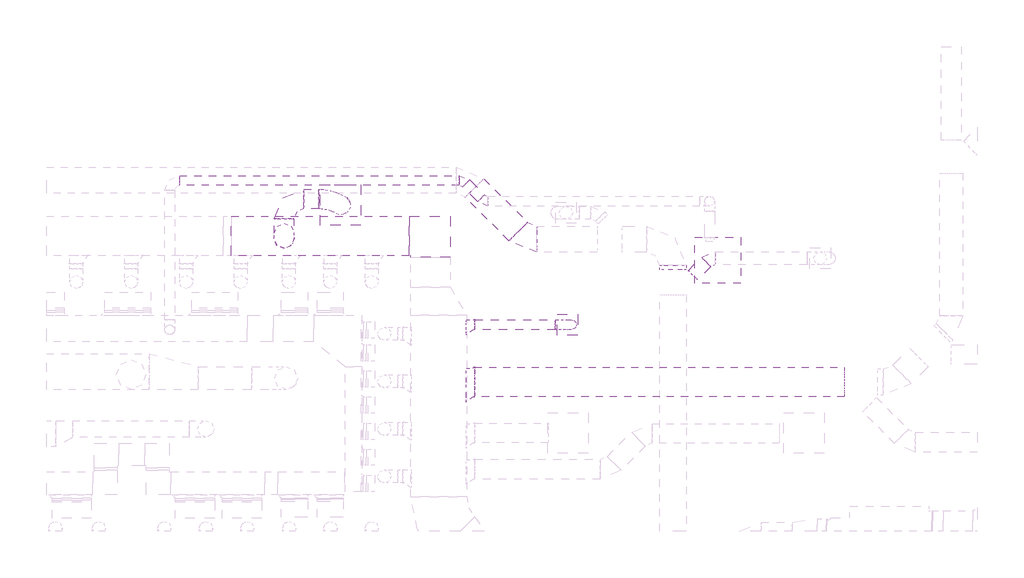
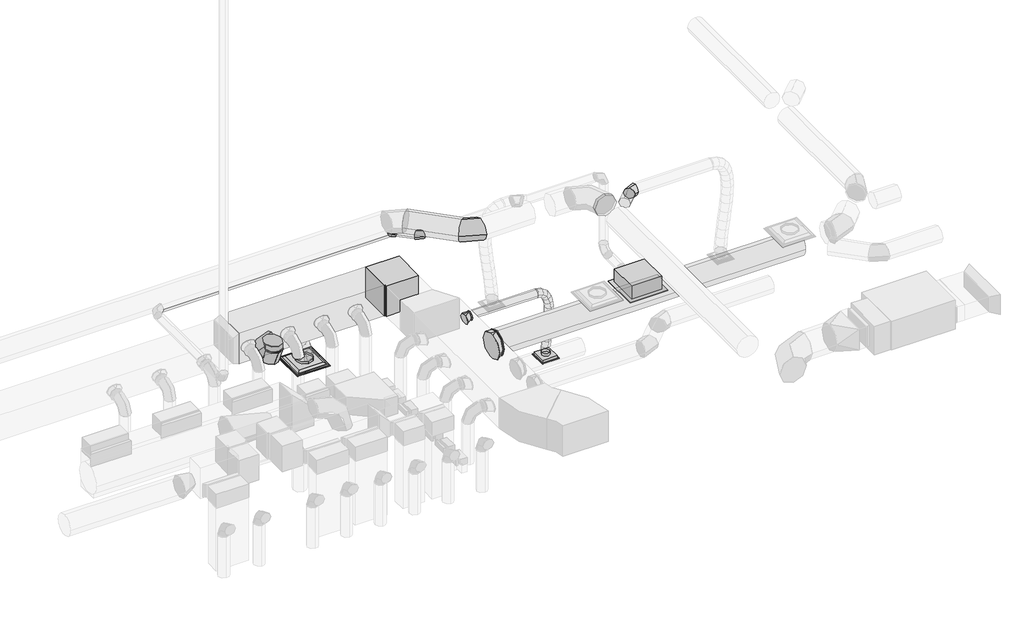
# One storey, part 26 of 33: 11 duct segments, 10 duct fittings, 2 air terminals, 1 proxy.
"""IFC4 building model written with IfcOpenShell, lengths in millimetres."""

from ifc_helpers import new_model, si_unit, point, frame, frame_2d, origin, place, context, project, spatial, polyline, circle_curve, ellipse_curve, trimmed, segment, composite_curve, outline, extrude, transform, mapped, element, save
from ifc_brep_helpers import plane_surface, cylinder_surface, advanced_brep
from components import air_terminal_a17ada07, air_terminal_5d8b7fa0, cash18d_cash18d_723cf2d9, rectangular_elbow_mitered_standard_5cce6547, round_elbow_1_d_30de4f45, round_elbow_1_d_281bc45b, round_elbow_1_d_ab3aa7ba, round_elbow_1_d_9a27e954, round_takeoff_shoe_standard_f5a08d47, round_takeoff_shoe_standard_8a2cc7e4, round_takeoff_shoe_standard_4f783c44

model = new_model("IFC4")

# Units and contexts
model_context = context("Model", 3, world=origin())
ifc_project = project(units=[si_unit("LENGTHUNIT", "METRE", prefix="MILLI")], contexts=[model_context])

# Site, building, storey
site = spatial("IfcSite", under=ifc_project)
building = spatial("IfcBuilding", under=site)
storey = spatial("IfcBuildingStorey", under=building, Name="T.O. SLAB - 1ST", Elevation=-25.4)

# Air terminals
placement = place(None, origin())
air_terminal_shape = air_terminal_a17ada07(model_context)
element("IfcAirTerminal", 1, ObjectType="Titus-Round_Neck_Supply_Diffuser-PCS_Surface_Mount : PCS AA-12_24x24", at=placement, inside=storey, context=model_context, shape_type="MappedRepresentation", body=[
    mapped(air_terminal_shape, transform((26085.8, 30772.0034288, 2717.8), x_axis=(0.0, -1.0, 0.0), y_axis=(-1.0, 0.0, 0.0), z_axis=(0.0, 0.0, -1.0))),
])
air_terminal_2_shape = air_terminal_5d8b7fa0(model_context)
element("IfcAirTerminal", 2, ObjectType="Titus-Round_Neck_Supply_Diffuser-PCS_Surface_Mount : PCS AA-06_12x12", at=placement, inside=storey, context=model_context, shape_type="MappedRepresentation", body=[
    mapped(air_terminal_2_shape, transform((29602.4038177, 28918.4516545, 2717.8), x_axis=(1.0, 0.0, 0.0), y_axis=(0.0, -1.0, 0.0), z_axis=(0.0, 0.0, -1.0))),
])

# Proxy
cash18d_cash18d_shape = cash18d_cash18d_723cf2d9(model_context)
element("IfcBuildingElementProxy", 3, Name="CASH18D : CASH18D", ObjectType="CASH18D : CASH18D", at=placement, inside=storey, context=model_context, shape_type="MappedRepresentation", body=[
    mapped(cash18d_cash18d_shape, transform((31930.1659696, 29914.1218978, 2717.8), x_axis=(-1.0, 0.0, 0.0), y_axis=(0.0, -1.0, 0.0), z_axis=(0.0, 0.0, 1.0))),
])

# Duct fittings
rectangular_elbow_mitered_standard_shape = rectangular_elbow_mitered_standard_5cce6547(model_context)
element("IfcDuctFitting", 4, ObjectType="Rectangular Elbow - Mitered : Standard", at=placement, inside=storey, context=model_context, shape_type="MappedRepresentation", body=[
    mapped(rectangular_elbow_mitered_standard_shape, transform((27480.302516, 30294.4408687, 4038.6), x_axis=(0.0, 1.0, 0.0), y_axis=(-1.0, 0.0, 0.0), z_axis=(0.0, 0.0, 1.0))),
])
round_elbow_1_d_shape = round_elbow_1_d_30de4f45(model_context)
element("IfcDuctFitting", 5, ObjectType="Round Elbow : 1 D", at=placement, inside=storey, context=model_context, shape_type="MappedRepresentation", body=[
    mapped(round_elbow_1_d_shape, transform((28958.2245404, 30242.4497351, 4648.2), x_axis=(0.7071067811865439, -0.7071067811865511, 0.0), y_axis=(0.7071067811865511, 0.7071067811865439, 0.0), z_axis=(0.0, 0.0, 1.0))),
])
round_elbow_1_d_2_shape = round_elbow_1_d_281bc45b(model_context)
element("IfcDuctFitting", 6, ObjectType="Round Elbow : 1 D", at=placement, inside=storey, context=model_context, shape_type="MappedRepresentation", body=[
    mapped(round_elbow_1_d_2_shape, transform((25210.5522227, 30865.9408687, 3302.0), x_axis=(-1.0, 0.0, 0.0), y_axis=(0.0, -1.0, 0.0), z_axis=(0.0, 0.0, 1.0))),
])
element("IfcDuctFitting", 7, ObjectType="Round Elbow : 1 D", at=placement, inside=storey, context=model_context, shape_type="MappedRepresentation", body=[
    mapped(round_elbow_1_d_2_shape, transform((25210.5522227, 30256.3408687, 3302.0), x_axis=(0.0, -1.0, 0.0), y_axis=(0.0, 0.0, 1.0), z_axis=(-1.0, 0.0, 0.0))),
])
round_elbow_1_d_3_shape = round_elbow_1_d_ab3aa7ba(model_context)
element("IfcDuctFitting", 8, ObjectType="Round Elbow : 1 D", at=placement, inside=storey, context=model_context, shape_type="MappedRepresentation", body=[
    mapped(round_elbow_1_d_3_shape, transform((31811.5608139, 29949.5109811, 4648.2), x_axis=(-1.0, 0.0, 0.0), y_axis=(0.0, -1.0, 0.0), z_axis=(0.0, 0.0, 1.0))),
])
round_elbow_1_d_4_shape = round_elbow_1_d_9a27e954(model_context)
element("IfcDuctFitting", 9, ObjectType="Round Elbow : 1 D", at=placement, inside=storey, context=model_context, shape_type="MappedRepresentation", body=[
    mapped(round_elbow_1_d_4_shape, transform((28307.094974, 30832.3557308, 4437.3601563), x_axis=(0.7071067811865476, -0.7071067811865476, 0.0), y_axis=(0.7071067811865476, 0.7071067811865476, 0.0), z_axis=(0.0, 0.0, 1.0))),
])
element("IfcDuctFitting", 10, ObjectType="Round Elbow : 1 D", at=placement, inside=storey, context=model_context, shape_type="MappedRepresentation", body=[
    mapped(round_elbow_1_d_4_shape, transform((27986.447276, 31153.0034288, 4437.3601563), x_axis=(-0.7071067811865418, 0.7071067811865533, 0.0), y_axis=(-0.7071067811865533, -0.7071067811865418, 0.0), z_axis=(0.0, 0.0, 1.0))),
])
round_takeoff_shoe_standard_shape = round_takeoff_shoe_standard_f5a08d47(model_context)
element("IfcDuctFitting", 11, ObjectType="Round Takeoff - Shoe : Standard", at=placement, inside=storey, context=model_context, shape_type="MappedRepresentation", body=[
    mapped(round_takeoff_shoe_standard_shape, transform((25210.5522227, 30256.3408687, 3733.8), x_axis=(0.0, 0.0, -1.0), y_axis=(0.0, 1.0000000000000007, 0.0), z_axis=(1.0000000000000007, 0.0, 0.0))),
])
round_takeoff_shoe_standard_2_shape = round_takeoff_shoe_standard_8a2cc7e4(model_context)
element("IfcDuctFitting", 12, ObjectType="Round Takeoff - Shoe : Standard", at=placement, inside=storey, context=model_context, shape_type="MappedRepresentation", body=[
    mapped(round_takeoff_shoe_standard_2_shape, transform((28039.102516, 28028.7984, 4038.6), x_axis=(1.0, 0.0, 0.0), y_axis=(0.0, 1.0, 0.0), z_axis=(0.0, 0.0, 1.0))),
])
round_takeoff_shoe_standard_3_shape = round_takeoff_shoe_standard_4f783c44(model_context)
element("IfcDuctFitting", 13, ObjectType="Round Takeoff - Shoe : Standard", at=placement, inside=storey, context=model_context, shape_type="MappedRepresentation", body=[
    mapped(round_takeoff_shoe_standard_3_shape, transform((28039.102516, 28918.4516545, 4038.6), x_axis=(1.0, 0.0, 0.0), y_axis=(0.0, 1.0000000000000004, 0.0), z_axis=(0.0, 0.0, 1.0000000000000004))),
])

# Duct segments
element("IfcDuctSegment", 14, ObjectType="Flex - Round", at=placement, inside=storey, context=model_context, shape_type="AdvancedBrep", body=[
    advanced_brep(
    [(25743.9522227, 31018.3408687, 3302.0), (25743.9522227, 30865.9408687, 3149.6), (25743.9522227, 30713.5408687, 3302.0), (25743.9522227, 30865.9408687, 3454.4), (25781.4737561, 31018.3408687, 3302.0), (25750.5074165, 30865.9408687, 3149.6), (25766.8152631, 30713.5408687, 3302.0), (25797.7816026, 30865.9408687, 3454.4), (26116.2644878, 30921.3274891, 2806.7), (26235.1240603, 30741.538941, 2806.7), (26055.3355122, 30622.6793685, 2806.7), (25936.4759397, 30802.4679166, 2806.7), (25845.9374406, 31011.9725484, 3281.4619299), (25762.9669002, 30864.7100054, 3145.6304201), (25807.6976696, 30709.5021256, 3288.9749032), (25890.66821, 30856.7646687, 3424.806413), (25927.7043327, 30997.083398, 3230.5403094), (25804.2257032, 30857.1970805, 3119.9358503), (25873.3242495, 30697.5520075, 3248.1049164), (25996.802879, 30837.4383251, 3358.7093755), (25995.3118847, 30977.4616641, 3157.4648812), (25844.4057493, 30845.5356292, 3076.5061744), (25932.1633182, 30680.4751498, 3184.5071376), (26083.0694536, 30812.4011847, 3265.4658444), (26047.923232, 30957.0159048, 3071.4542075), (25882.2223868, 30830.8393724, 3014.6823544), (25982.4420817, 30660.9358764, 3102.3098448), (26148.1429269, 30787.1124087, 3159.0816979), (26085.809162, 30938.8943089, 2979.4127758), (25911.8511145, 30816.6673611, 2942.701265), (26021.2800938, 30642.3588806, 3007.9553909), (26195.2381414, 30764.5858284, 3044.6669018), (26108.6940474, 30926.0843458, 2888.1383638), (25930.417606, 30806.2746469, 2868.6503982), (26046.3433235, 30628.3295752, 2907.9928387), (26224.6197648, 30748.139274, 2927.4808043), (26116.2644878, 30921.3274891, 2819.4445256), (25936.4759397, 30802.4679166, 2813.677349), (26055.3355122, 30622.6793685, 2826.3981198), (26235.1240603, 30741.538941, 2832.1652964)],
    [
        (0, 1, circle_curve(frame((25743.9522227, 30865.9408687, 3302.0), z_axis=(-1.0, 0.0, 0.0), x_axis=(0.0, 1.0, 0.0)), 152.4)),
        (1, 2, circle_curve(frame((25743.9522227, 30865.9408687, 3302.0), z_axis=(-1.0, 0.0, 0.0), x_axis=(0.0, 1.0, 0.0)), 152.4)),
        (2, 3, circle_curve(frame((25743.9522227, 30865.9408687, 3302.0), z_axis=(-1.0, 0.0, 0.0), x_axis=(0.0, 1.0, 0.0)), 152.4)),
        (3, 0, circle_curve(frame((25743.9522227, 30865.9408687, 3302.0), z_axis=(-1.0, 0.0, 0.0), x_axis=(0.0, 1.0, 0.0)), 152.4)),
        (0, 4),
        (4, 5, ellipse_curve(frame((25774.1445096, 30865.9408687, 3302.0), z_axis=(-0.9870708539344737, 0.047470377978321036, 0.15309373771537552), x_axis=(-0.16028452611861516, -0.2923340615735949, -0.9427882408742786)), 154.3962112, 152.4)),
        (5, 1),
        (5, 6, ellipse_curve(frame((25774.1445096, 30865.9408687, 3302.0), z_axis=(-0.9870708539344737, 0.047470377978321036, 0.15309373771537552), x_axis=(-0.16028452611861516, -0.2923340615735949, -0.9427882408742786)), 154.3962112, 152.4)),
        (6, 2),
        (6, 7, ellipse_curve(frame((25774.1445096, 30865.9408687, 3302.0), z_axis=(-0.9870708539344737, 0.047470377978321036, 0.15309373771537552), x_axis=(-0.16028452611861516, -0.2923340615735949, -0.9427882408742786)), 154.3962112, 152.4)),
        (7, 3),
        (7, 4, ellipse_curve(frame((25774.1445096, 30865.9408687, 3302.0), z_axis=(-0.9870708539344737, 0.047470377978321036, 0.15309373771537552), x_axis=(-0.16028452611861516, -0.2923340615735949, -0.9427882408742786)), 154.3962112, 152.4)),
        (8, 9, circle_curve(frame((26085.8, 30772.0034288, 2806.7), z_axis=(0.0, 0.0, -1.0), x_axis=(0.19989821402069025, 0.979816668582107, 0.0)), 152.4)),
        (9, 10, circle_curve(frame((26085.8, 30772.0034288, 2806.7), z_axis=(0.0, 0.0, -1.0), x_axis=(0.19989821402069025, 0.979816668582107, 0.0)), 152.4)),
        (10, 11, circle_curve(frame((26085.8, 30772.0034288, 2806.7), z_axis=(0.0, 0.0, -1.0), x_axis=(0.19989821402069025, 0.979816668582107, 0.0)), 152.4)),
        (11, 8, circle_curve(frame((26085.8, 30772.0034288, 2806.7), z_axis=(0.0, 0.0, -1.0), x_axis=(0.19989821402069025, 0.979816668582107, 0.0)), 152.4)),
        (4, 12),
        (12, 13, ellipse_curve(frame((25826.8175551, 30860.737337, 3285.2184165), z_axis=(-0.9009913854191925, 0.12423236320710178, 0.4156691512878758), x_axis=(-0.4336943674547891, -0.2333558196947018, -0.8703184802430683)), 153.63433, 152.4)),
        (13, 5),
        (13, 14, ellipse_curve(frame((25826.8175551, 30860.737337, 3285.2184165), z_axis=(-0.9009913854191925, 0.12423236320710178, 0.4156691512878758), x_axis=(-0.4336943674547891, -0.2333558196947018, -0.8703184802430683)), 153.63433, 152.4)),
        (14, 6),
        (14, 15, ellipse_curve(frame((25826.8175551, 30860.737337, 3285.2184165), z_axis=(-0.9009913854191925, 0.12423236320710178, 0.4156691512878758), x_axis=(-0.4336943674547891, -0.2333558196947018, -0.8703184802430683)), 153.63433, 152.4)),
        (15, 7),
        (15, 12, ellipse_curve(frame((25826.8175551, 30860.737337, 3285.2184165), z_axis=(-0.9009913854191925, 0.12423236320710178, 0.4156691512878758), x_axis=(-0.4336943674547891, -0.2333558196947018, -0.8703184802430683)), 153.63433, 152.4)),
        (12, 16),
        (16, 17, ellipse_curve(frame((25900.5142911, 30847.3177028, 3239.3226129), z_axis=(-0.7593154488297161, 0.1746132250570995, 0.6268574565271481), x_axis=(-0.6498270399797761, -0.15294624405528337, -0.7445349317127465)), 153.761907, 152.4)),
        (17, 13),
        (17, 18, ellipse_curve(frame((25900.5142911, 30847.3177028, 3239.3226129), z_axis=(-0.7593154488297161, 0.1746132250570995, 0.6268574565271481), x_axis=(-0.6498270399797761, -0.15294624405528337, -0.7445349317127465)), 153.761907, 152.4)),
        (18, 14),
        (18, 19, ellipse_curve(frame((25900.5142911, 30847.3177028, 3239.3226129), z_axis=(-0.7593154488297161, 0.1746132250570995, 0.6268574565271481), x_axis=(-0.6498270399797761, -0.15294624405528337, -0.7445349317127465)), 153.761907, 152.4)),
        (19, 15),
        (19, 16, ellipse_curve(frame((25900.5142911, 30847.3177028, 3239.3226129), z_axis=(-0.7593154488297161, 0.1746132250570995, 0.6268574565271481), x_axis=(-0.6498270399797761, -0.15294624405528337, -0.7445349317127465)), 153.761907, 152.4)),
        (16, 20),
        (20, 21, ellipse_curve(frame((25963.7376015, 30828.9684069, 3170.9860094), z_axis=(-0.5916205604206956, 0.19698247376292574, 0.7817819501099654), x_axis=(-0.8004457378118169, -0.02770123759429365, -0.598764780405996)), 153.1184075, 152.4)),
        (21, 17),
        (21, 22, ellipse_curve(frame((25963.7376015, 30828.9684069, 3170.9860094), z_axis=(-0.5916205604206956, 0.19698247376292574, 0.7817819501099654), x_axis=(-0.8004457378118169, -0.02770123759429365, -0.598764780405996)), 153.1184075, 152.4)),
        (22, 18),
        (22, 23, ellipse_curve(frame((25963.7376015, 30828.9684069, 3170.9860094), z_axis=(-0.5916205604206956, 0.19698247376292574, 0.7817819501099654), x_axis=(-0.8004457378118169, -0.02770123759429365, -0.598764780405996)), 153.1184075, 152.4)),
        (23, 19),
        (23, 20, ellipse_curve(frame((25963.7376015, 30828.9684069, 3170.9860094), z_axis=(-0.5916205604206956, 0.19698247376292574, 0.7817819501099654), x_axis=(-0.8004457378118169, -0.02770123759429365, -0.598764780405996)), 153.1184075, 152.4)),
        (20, 24),
        (24, 25, ellipse_curve(frame((26015.1826568, 30808.9758906, 3086.8820262), z_axis=(-0.44430404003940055, 0.18951227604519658, 0.8756020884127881), x_axis=(-0.873555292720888, 0.12516581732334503, -0.47035589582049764)), 152.8701623, 152.4)),
        (25, 21),
        (25, 26, ellipse_curve(frame((26015.1826568, 30808.9758906, 3086.8820262), z_axis=(-0.44430404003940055, 0.18951227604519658, 0.8756020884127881), x_axis=(-0.873555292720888, 0.12516581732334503, -0.47035589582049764)), 152.8701623, 152.4)),
        (26, 22),
        (26, 27, ellipse_curve(frame((26015.1826568, 30808.9758906, 3086.8820262), z_axis=(-0.44430404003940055, 0.18951227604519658, 0.8756020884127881), x_axis=(-0.873555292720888, 0.12516581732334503, -0.47035589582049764)), 152.8701623, 152.4)),
        (27, 23),
        (27, 24, ellipse_curve(frame((26015.1826568, 30808.9758906, 3086.8820262), z_axis=(-0.44430404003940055, 0.18951227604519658, 0.8756020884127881), x_axis=(-0.873555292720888, 0.12516581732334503, -0.47035589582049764)), 152.8701623, 152.4)),
        (24, 28),
        (28, 29, ellipse_curve(frame((26053.5446279, 30790.6265947, 2993.6840834), z_axis=(-0.3085928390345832, 0.15744584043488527, 0.9380731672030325), x_axis=(-0.8916946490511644, 0.29544003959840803, -0.3429224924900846)), 152.8288142, 152.4)),
        (29, 25),
        (29, 30, ellipse_curve(frame((26053.5446279, 30790.6265947, 2993.6840834), z_axis=(-0.3085928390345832, 0.15744584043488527, 0.9380731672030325), x_axis=(-0.8916946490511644, 0.29544003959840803, -0.3429224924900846)), 152.8288142, 152.4)),
        (30, 26),
        (30, 31, ellipse_curve(frame((26053.5446279, 30790.6265947, 2993.6840834), z_axis=(-0.3085928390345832, 0.15744584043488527, 0.9380731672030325), x_axis=(-0.8916946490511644, 0.29544003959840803, -0.3429224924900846)), 152.8288142, 152.4)),
        (31, 27),
        (31, 28, ellipse_curve(frame((26053.5446279, 30790.6265947, 2993.6840834), z_axis=(-0.3085928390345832, 0.15744584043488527, 0.9380731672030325), x_axis=(-0.8916946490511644, 0.29544003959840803, -0.3429224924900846)), 152.8288142, 152.4)),
        (28, 32),
        (32, 33, ellipse_curve(frame((26077.5186854, 30777.2069605, 2898.0656012), z_axis=(-0.17562798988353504, 0.10206743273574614, 0.9791511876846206), x_axis=(-0.8748502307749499, 0.43990786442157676, -0.20277609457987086)), 152.8335082, 152.4)),
        (33, 29),
        (33, 34, ellipse_curve(frame((26077.5186854, 30777.2069605, 2898.0656012), z_axis=(-0.17562798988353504, 0.10206743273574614, 0.9791511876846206), x_axis=(-0.8748502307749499, 0.43990786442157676, -0.20277609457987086)), 152.8335082, 152.4)),
        (34, 30),
        (34, 35, ellipse_curve(frame((26077.5186854, 30777.2069605, 2898.0656012), z_axis=(-0.17562798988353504, 0.10206743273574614, 0.9791511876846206), x_axis=(-0.8748502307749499, 0.43990786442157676, -0.20277609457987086)), 152.8335082, 152.4)),
        (35, 31),
        (35, 32, ellipse_curve(frame((26077.5186854, 30777.2069605, 2898.0656012), z_axis=(-0.17562798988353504, 0.10206743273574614, 0.9791511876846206), x_axis=(-0.8748502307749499, 0.43990786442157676, -0.20277609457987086)), 152.8335082, 152.4)),
        (32, 36),
        (36, 37, ellipse_curve(frame((26085.8, 30772.0034288, 2822.9213227), z_axis=(-0.05475649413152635, 0.03440602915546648, 0.9979067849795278), x_axis=(-0.8449501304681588, 0.5309211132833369, -0.06466875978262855)), 152.7196751, 152.4)),
        (37, 33),
        (37, 38, ellipse_curve(frame((26085.8, 30772.0034288, 2822.9213227), z_axis=(-0.05475649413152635, 0.03440602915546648, 0.9979067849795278), x_axis=(-0.8449501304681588, 0.5309211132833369, -0.06466875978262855)), 152.7196751, 152.4)),
        (38, 34),
        (38, 39, ellipse_curve(frame((26085.8, 30772.0034288, 2822.9213227), z_axis=(-0.05475649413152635, 0.03440602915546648, 0.9979067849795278), x_axis=(-0.8449501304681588, 0.5309211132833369, -0.06466875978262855)), 152.7196751, 152.4)),
        (39, 35),
        (39, 36, ellipse_curve(frame((26085.8, 30772.0034288, 2822.9213227), z_axis=(-0.05475649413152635, 0.03440602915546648, 0.9979067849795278), x_axis=(-0.8449501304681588, 0.5309211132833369, -0.06466875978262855)), 152.7196751, 152.4)),
        (36, 8),
        (11, 37),
        (10, 38),
        (9, 39),
    ],
    [
        plane_surface(frame((25743.9522227, 30865.9408687, 3149.6), z_axis=(-1.0, 0.0, 0.0), x_axis=(0.0, 1.0, 0.0))),
        cylinder_surface(frame((25743.9522227, 30865.9408687, 3302.0), z_axis=(-1.0, 0.0, 0.0), x_axis=(0.0, 1.0, 0.0)), 152.4),
        plane_surface(frame((26085.8, 30619.6034288, 2806.7), z_axis=(0.0, 0.0, -1.0), x_axis=(-1.0, 0.0, 0.0))),
        cylinder_surface(frame((25774.1445096, 30865.9408687, 3302.0), z_axis=(-0.9486177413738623, 0.09371325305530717, 0.30222873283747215), x_axis=(0.09371325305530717, 0.9954931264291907, -0.01453483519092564)), 152.4),
        cylinder_surface(frame((25826.8175551, 30860.737337, 3285.2184165), z_axis=(-0.83888752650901, 0.15275525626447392, 0.5224304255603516), x_axis=(0.15353177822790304, 0.9872451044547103, -0.04213189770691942)), 152.4),
        cylinder_surface(frame((25900.5142911, 30847.3177028, 3239.3226129), z_axis=(-0.6662924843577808, 0.1933780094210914, 0.7201800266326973), x_axis=(0.19817391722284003, 0.9769791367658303, -0.07898648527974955)), 152.4),
        cylinder_surface(frame((25963.7376015, 30828.9684069, 3170.9860094), z_axis=(-0.5113970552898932, 0.1987385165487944, 0.8360478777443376), x_axis=(0.2140930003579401, 0.9716788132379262, -0.10002235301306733)), 152.4),
        cylinder_surface(frame((26015.1826568, 30808.9758906, 3086.8820262), z_axis=(-0.3744780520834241, 0.17912032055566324, 0.9097703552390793), x_axis=(0.21537517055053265, 0.971131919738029, -0.10254916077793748)), 152.4),
        cylinder_surface(frame((26053.5446279, 30790.6265947, 2993.6840834), z_axis=(-0.2409758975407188, 0.13488782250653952, 0.961111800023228), x_axis=(0.2093507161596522, 0.9742056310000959, -0.08423577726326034)), 152.4),
        cylinder_surface(frame((26077.5186854, 30777.2069605, 2898.0656012), z_axis=(-0.10928375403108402, 0.06866801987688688, 0.9916359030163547), x_axis=(0.20239137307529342, 0.9782501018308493, -0.04543644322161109)), 152.4),
        cylinder_surface(frame((26085.8, 30772.0034288, 2822.9213227), z_axis=(0.0, 0.0, 1.0000000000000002), x_axis=(0.19989821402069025, 0.979816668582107, 0.0)), 152.4),
    ],
    [
        (0, [[1, 2, 3, 4]]),
        (1, [[-1, 5, 6, 7]]),
        (1, [[-2, -7, 8, 9]]),
        (1, [[-3, -9, 10, 11]]),
        (1, [[-4, -11, 12, -5]]),
        (2, [[13, 14, 15, 16]]),
        (3, [[-6, 17, 18, 19]]),
        (3, [[-8, -19, 20, 21]]),
        (3, [[-10, -21, 22, 23]]),
        (3, [[-12, -23, 24, -17]]),
        (4, [[-18, 25, 26, 27]]),
        (4, [[-20, -27, 28, 29]]),
        (4, [[-22, -29, 30, 31]]),
        (4, [[-24, -31, 32, -25]]),
        (5, [[-26, 33, 34, 35]]),
        (5, [[-28, -35, 36, 37]]),
        (5, [[-30, -37, 38, 39]]),
        (5, [[-32, -39, 40, -33]]),
        (6, [[-34, 41, 42, 43]]),
        (6, [[-36, -43, 44, 45]]),
        (6, [[-38, -45, 46, 47]]),
        (6, [[-40, -47, 48, -41]]),
        (7, [[-42, 49, 50, 51]]),
        (7, [[-44, -51, 52, 53]]),
        (7, [[-46, -53, 54, 55]]),
        (7, [[-48, -55, 56, -49]]),
        (8, [[-50, 57, 58, 59]]),
        (8, [[-52, -59, 60, 61]]),
        (8, [[-54, -61, 62, 63]]),
        (8, [[-56, -63, 64, -57]]),
        (9, [[-58, 65, 66, 67]]),
        (9, [[-60, -67, 68, 69]]),
        (9, [[-62, -69, 70, 71]]),
        (9, [[-64, -71, 72, -65]]),
        (10, [[-66, 73, -16, 74]]),
        (10, [[-68, -74, -15, 75]]),
        (10, [[-70, -75, -14, 76]]),
        (10, [[-72, -76, -13, -73]]),
    ],
),
])
element("IfcDuctSegment", 15, ObjectType="Flex - Round", at=placement, inside=storey, context=model_context, shape_type="AdvancedBrep", body=[
    advanced_brep(
    [(29416.2550232, 28994.6516545, 4038.6), (29416.2550232, 28918.4516545, 3962.4), (29416.2550232, 28842.2516545, 4038.6), (29416.2550232, 28918.4516545, 4114.8), (29429.7053594, 28994.6516545, 4038.6), (29421.7667373, 28918.4516545, 3962.4), (29429.7053594, 28842.2516545, 4038.6), (29437.6439815, 28918.4516545, 4114.8), (29602.4038177, 28994.6516545, 2813.05), (29678.6038177, 28918.4516545, 2813.05), (29602.4038177, 28842.2516545, 2813.05), (29526.2038177, 28918.4516545, 2813.05), (29506.7188199, 28994.6516545, 4022.3771823), (29476.1273574, 28918.4516545, 3950.9489832), (29506.7188199, 28842.2516545, 4022.3771823), (29537.3102824, 28918.4516545, 4093.8053814), (29573.5167927, 28994.6516545, 3976.5131125), (29517.8240509, 28918.4516545, 3922.3196704), (29573.5167927, 28842.2516545, 3976.5131125), (29629.2095346, 28918.4516545, 4030.7065546), (29619.6604308, 28994.6516545, 3905.2143653), (29549.9476137, 28918.4516545, 3872.6840136), (29619.6604308, 28842.2516545, 3905.2143653), (29689.373248, 28918.4516545, 3937.744717), (29648.1612233, 28994.6516545, 3812.6875156), (29573.3940098, 28918.4516545, 3796.5660889), (29648.1612233, 28842.2516545, 3812.6875156), (29722.9284368, 28918.4516545, 3828.8089422), (29662.0306593, 28994.6516545, 3703.139138), (29585.9189282, 28918.4516545, 3697.637446), (29662.0306593, 28842.2516545, 3703.139138), (29738.1423904, 28918.4516545, 3708.6408301), (29664.280228, 28994.6516545, 3580.7758075), (29588.046236, 28918.4516545, 3581.9243845), (29664.280228, 28842.2516545, 3580.7758075), (29740.5142199, 28918.4516545, 3579.6272305), (29657.9214184, 28994.6516545, 3449.8040988), (29581.8841982, 28918.4516545, 3455.0055603), (29657.9214184, 28842.2516545, 3449.8040988), (29733.9586387, 28918.4516545, 3444.6026373), (29645.9657199, 28994.6516545, 3314.4305867), (29570.1240583, 28918.4516545, 3321.8463452), (29645.9657199, 28842.2516545, 3314.4305867), (29721.8073814, 28918.4516545, 3307.0148282), (29631.4246213, 28994.6516545, 3178.861846), (29555.6592042, 28918.4516545, 3186.988442), (29631.4246213, 28842.2516545, 3178.861846), (29707.1900385, 28918.4516545, 3170.7352499), (29617.3096121, 28994.6516545, 3047.3044514), (29541.4610083, 28918.4516545, 3054.6557164), (29617.3096121, 28842.2516545, 3047.3044514), (29693.1582158, 28918.4516545, 3039.9531864), (29606.6321811, 28994.6516545, 2923.9649778), (29530.5609007, 28918.4516545, 2928.7440116), (29606.6321811, 28842.2516545, 2923.9649778), (29682.7034615, 28918.4516545, 2919.1859441), (29602.4038177, 28994.6516545, 2815.9528308), (29526.2038177, 28918.4516545, 2817.4437648), (29602.4038177, 28842.2516545, 2815.9528308), (29678.6038177, 28918.4516545, 2814.4618969)],
    [
        (0, 1, circle_curve(frame((29416.2550232, 28918.4516545, 4038.6), z_axis=(-1.0, 0.0, 0.0), x_axis=(0.0, 1.0, 0.0)), 76.2)),
        (1, 2, circle_curve(frame((29416.2550232, 28918.4516545, 4038.6), z_axis=(-1.0, 0.0, 0.0), x_axis=(0.0, 1.0, 0.0)), 76.2)),
        (2, 3, circle_curve(frame((29416.2550232, 28918.4516545, 4038.6), z_axis=(-1.0, 0.0, 0.0), x_axis=(0.0, 1.0, 0.0)), 76.2)),
        (3, 0, circle_curve(frame((29416.2550232, 28918.4516545, 4038.6), z_axis=(-1.0, 0.0, 0.0), x_axis=(0.0, 1.0, 0.0)), 76.2)),
        (0, 4),
        (4, 5, ellipse_curve(frame((29429.7053594, 28918.4516545, 4038.6), z_axis=(-0.994616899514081, 0.0, 0.1036205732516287), x_axis=(-0.10362057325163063, 0.0, -0.9946168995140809)), 76.6124123, 76.2)),
        (5, 1),
        (5, 6, ellipse_curve(frame((29429.7053594, 28918.4516545, 4038.6), z_axis=(-0.994616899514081, 0.0, 0.1036205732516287), x_axis=(-0.10362057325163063, 0.0, -0.9946168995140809)), 76.6124123, 76.2)),
        (6, 2),
        (6, 7, ellipse_curve(frame((29429.7053594, 28918.4516545, 4038.6), z_axis=(-0.994616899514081, 0.0, 0.1036205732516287), x_axis=(-0.10362057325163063, 0.0, -0.9946168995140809)), 76.6124123, 76.2)),
        (7, 3),
        (7, 4, ellipse_curve(frame((29429.7053594, 28918.4516545, 4038.6), z_axis=(-0.994616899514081, 0.0, 0.1036205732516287), x_axis=(-0.10362057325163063, 0.0, -0.9946168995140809)), 76.6124123, 76.2)),
        (8, 9, circle_curve(frame((29602.4038177, 28918.4516545, 2813.05), z_axis=(0.0, 0.0, -1.0), x_axis=(0.0, 1.0, 0.0)), 76.2)),
        (9, 10, circle_curve(frame((29602.4038177, 28918.4516545, 2813.05), z_axis=(0.0, 0.0, -1.0), x_axis=(0.0, 1.0, 0.0)), 76.2)),
        (10, 11, circle_curve(frame((29602.4038177, 28918.4516545, 2813.05), z_axis=(0.0, 0.0, -1.0), x_axis=(0.0, 1.0, 0.0)), 76.2)),
        (11, 8, circle_curve(frame((29602.4038177, 28918.4516545, 2813.05), z_axis=(0.0, 0.0, -1.0), x_axis=(0.0, 1.0, 0.0)), 76.2)),
        (4, 12),
        (12, 13, ellipse_curve(frame((29506.7188199, 28918.4516545, 4022.3771823), z_axis=(-0.919241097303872, 0.0, 0.3936950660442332), x_axis=(-0.3936950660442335, 0.0, -0.919241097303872)), 77.703444, 76.2)),
        (13, 5),
        (13, 14, ellipse_curve(frame((29506.7188199, 28918.4516545, 4022.3771823), z_axis=(-0.919241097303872, 0.0, 0.3936950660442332), x_axis=(-0.3936950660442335, 0.0, -0.919241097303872)), 77.703444, 76.2)),
        (14, 6),
        (14, 15, ellipse_curve(frame((29506.7188199, 28918.4516545, 4022.3771823), z_axis=(-0.919241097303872, 0.0, 0.3936950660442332), x_axis=(-0.3936950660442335, 0.0, -0.919241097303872)), 77.703444, 76.2)),
        (15, 7),
        (15, 12, ellipse_curve(frame((29506.7188199, 28918.4516545, 4022.3771823), z_axis=(-0.919241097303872, 0.0, 0.3936950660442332), x_axis=(-0.3936950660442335, 0.0, -0.919241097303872)), 77.703444, 76.2)),
        (12, 16),
        (16, 17, ellipse_curve(frame((29573.5167927, 28918.4516545, 3976.5131125), z_axis=(-0.6973940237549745, 0.0, 0.7166879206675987), x_axis=(-0.7166879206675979, 0.0, -0.6973940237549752)), 77.708498, 76.2)),
        (17, 13),
        (17, 18, ellipse_curve(frame((29573.5167927, 28918.4516545, 3976.5131125), z_axis=(-0.6973940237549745, 0.0, 0.7166879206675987), x_axis=(-0.7166879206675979, 0.0, -0.6973940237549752)), 77.708498, 76.2)),
        (18, 14),
        (18, 19, ellipse_curve(frame((29573.5167927, 28918.4516545, 3976.5131125), z_axis=(-0.6973940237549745, 0.0, 0.7166879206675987), x_axis=(-0.7166879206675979, 0.0, -0.6973940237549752)), 77.708498, 76.2)),
        (19, 15),
        (19, 16, ellipse_curve(frame((29573.5167927, 28918.4516545, 3976.5131125), z_axis=(-0.6973940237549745, 0.0, 0.7166879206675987), x_axis=(-0.7166879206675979, 0.0, -0.6973940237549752)), 77.708498, 76.2)),
        (16, 20),
        (20, 21, ellipse_curve(frame((29619.6604308, 28918.4516545, 3905.2143653), z_axis=(-0.42286095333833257, 0.0, 0.9061945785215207), x_axis=(-0.9061945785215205, 0.0, -0.4228609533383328)), 76.9291925, 76.2)),
        (21, 17),
        (21, 22, ellipse_curve(frame((29619.6604308, 28918.4516545, 3905.2143653), z_axis=(-0.42286095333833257, 0.0, 0.9061945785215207), x_axis=(-0.9061945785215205, 0.0, -0.4228609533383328)), 76.9291925, 76.2)),
        (22, 18),
        (22, 23, ellipse_curve(frame((29619.6604308, 28918.4516545, 3905.2143653), z_axis=(-0.42286095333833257, 0.0, 0.9061945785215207), x_axis=(-0.9061945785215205, 0.0, -0.4228609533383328)), 76.9291925, 76.2)),
        (23, 19),
        (23, 20, ellipse_curve(frame((29619.6604308, 28918.4516545, 3905.2143653), z_axis=(-0.42286095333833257, 0.0, 0.9061945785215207), x_axis=(-0.9061945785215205, 0.0, -0.4228609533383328)), 76.9291925, 76.2)),
        (20, 24),
        (24, 25, ellipse_curve(frame((29648.1612233, 28918.4516545, 3812.6875156), z_axis=(-0.2107774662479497, 0.0, 0.9775340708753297), x_axis=(-0.9775340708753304, 0.0, -0.21077746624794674)), 76.485532, 76.2)),
        (25, 21),
        (25, 26, ellipse_curve(frame((29648.1612233, 28918.4516545, 3812.6875156), z_axis=(-0.2107774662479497, 0.0, 0.9775340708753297), x_axis=(-0.9775340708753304, 0.0, -0.21077746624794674)), 76.485532, 76.2)),
        (26, 22),
        (26, 27, ellipse_curve(frame((29648.1612233, 28918.4516545, 3812.6875156), z_axis=(-0.2107774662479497, 0.0, 0.9775340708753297), x_axis=(-0.9775340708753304, 0.0, -0.21077746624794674)), 76.485532, 76.2)),
        (27, 23),
        (27, 24, ellipse_curve(frame((29648.1612233, 28918.4516545, 3812.6875156), z_axis=(-0.2107774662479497, 0.0, 0.9775340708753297), x_axis=(-0.9775340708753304, 0.0, -0.21077746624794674)), 76.485532, 76.2)),
        (24, 28),
        (28, 29, ellipse_curve(frame((29662.0306593, 28918.4516545, 3703.139138), z_axis=(-0.07209630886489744, 0.0, 0.997397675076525), x_axis=(-0.9973976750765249, 0.0, -0.07209630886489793)), 76.3103154, 76.2)),
        (29, 25),
        (29, 30, ellipse_curve(frame((29662.0306593, 28918.4516545, 3703.139138), z_axis=(-0.07209630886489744, 0.0, 0.997397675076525), x_axis=(-0.9973976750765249, 0.0, -0.07209630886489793)), 76.3103154, 76.2)),
        (30, 26),
        (30, 31, ellipse_curve(frame((29662.0306593, 28918.4516545, 3703.139138), z_axis=(-0.07209630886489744, 0.0, 0.997397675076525), x_axis=(-0.9973976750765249, 0.0, -0.07209630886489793)), 76.3103154, 76.2)),
        (31, 27),
        (31, 28, ellipse_curve(frame((29662.0306593, 28918.4516545, 3703.139138), z_axis=(-0.07209630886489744, 0.0, 0.997397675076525), x_axis=(-0.9973976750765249, 0.0, -0.07209630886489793)), 76.3103154, 76.2)),
        (28, 32),
        (32, 33, ellipse_curve(frame((29664.280228, 28918.4516545, 3580.7758075), z_axis=(0.015064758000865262, 0.0, 0.9998865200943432), x_axis=(-0.9998865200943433, 0.0, 0.015064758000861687)), 76.2426439, 76.2)),
        (33, 29),
        (33, 34, ellipse_curve(frame((29664.280228, 28918.4516545, 3580.7758075), z_axis=(0.015064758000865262, 0.0, 0.9998865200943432), x_axis=(-0.9998865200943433, 0.0, 0.015064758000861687)), 76.2426439, 76.2)),
        (34, 30),
        (34, 35, ellipse_curve(frame((29664.280228, 28918.4516545, 3580.7758075), z_axis=(0.015064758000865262, 0.0, 0.9998865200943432), x_axis=(-0.9998865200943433, 0.0, 0.015064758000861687)), 76.2426439, 76.2)),
        (35, 31),
        (35, 32, ellipse_curve(frame((29664.280228, 28918.4516545, 3580.7758075), z_axis=(0.015064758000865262, 0.0, 0.9998865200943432), x_axis=(-0.9998865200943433, 0.0, 0.015064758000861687)), 76.2426439, 76.2)),
        (32, 36),
        (36, 37, ellipse_curve(frame((29657.9214184, 28918.4516545, 3449.8040988), z_axis=(0.0682472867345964, 0.0, 0.9976684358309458), x_axis=(-0.997668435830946, 0.0, 0.06824728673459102)), 76.2149202, 76.2)),
        (37, 33),
        (37, 38, ellipse_curve(frame((29657.9214184, 28918.4516545, 3449.8040988), z_axis=(0.0682472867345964, 0.0, 0.9976684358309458), x_axis=(-0.997668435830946, 0.0, 0.06824728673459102)), 76.2149202, 76.2)),
        (38, 34),
        (38, 39, ellipse_curve(frame((29657.9214184, 28918.4516545, 3449.8040988), z_axis=(0.0682472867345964, 0.0, 0.9976684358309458), x_axis=(-0.997668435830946, 0.0, 0.06824728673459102)), 76.2149202, 76.2)),
        (39, 35),
        (39, 36, ellipse_curve(frame((29657.9214184, 28918.4516545, 3449.8040988), z_axis=(0.0682472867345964, 0.0, 0.9976684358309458), x_axis=(-0.997668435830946, 0.0, 0.06824728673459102)), 76.2149202, 76.2)),
        (36, 40),
        (40, 41, ellipse_curve(frame((29645.9657199, 28918.4516545, 3314.4305867), z_axis=(0.09731538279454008, 0.0, 0.9952535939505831), x_axis=(-0.9952535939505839, -1.7042062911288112e-12, 0.09731538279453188)), 76.2033536, 76.2)),
        (41, 37),
        (41, 42, ellipse_curve(frame((29645.9657199, 28918.4516545, 3314.4305867), z_axis=(0.09731538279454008, 0.0, 0.9952535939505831), x_axis=(-0.9952535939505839, -1.7042062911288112e-12, 0.09731538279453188)), 76.2033536, 76.2)),
        (42, 38),
        (42, 43, ellipse_curve(frame((29645.9657199, 28918.4516545, 3314.4305867), z_axis=(0.09731538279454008, 0.0, 0.9952535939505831), x_axis=(-0.9952535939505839, -1.7042062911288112e-12, 0.09731538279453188)), 76.2033536, 76.2)),
        (43, 39),
        (43, 40, ellipse_curve(frame((29645.9657199, 28918.4516545, 3314.4305867), z_axis=(0.09731538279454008, 0.0, 0.9952535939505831), x_axis=(-0.9952535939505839, -1.7042062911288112e-12, 0.09731538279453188)), 76.2033536, 76.2)),
        (40, 44),
        (44, 45, circle_curve(frame((29631.4246213, 28918.4516545, 3178.861846), z_axis=(0.10664824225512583, 0.0, 0.9942968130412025), x_axis=(0.0, 1.0, 0.0)), 76.2)),
        (45, 41),
        (45, 46, circle_curve(frame((29631.4246213, 28918.4516545, 3178.861846), z_axis=(0.10664824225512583, 0.0, 0.9942968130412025), x_axis=(0.0, 1.0, 0.0)), 76.2)),
        (46, 42),
        (46, 47, circle_curve(frame((29631.4246213, 28918.4516545, 3178.861846), z_axis=(0.10664824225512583, 0.0, 0.9942968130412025), x_axis=(0.0, 1.0, 0.0)), 76.2)),
        (47, 43),
        (47, 44, circle_curve(frame((29631.4246213, 28918.4516545, 3178.861846), z_axis=(0.10664824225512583, 0.0, 0.9942968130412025), x_axis=(0.0, 1.0, 0.0)), 76.2)),
        (44, 48),
        (48, 49, ellipse_curve(frame((29617.3096121, 28918.4516545, 3047.3044514), z_axis=(0.09646821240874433, 0.0, 0.9953360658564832), x_axis=(0.9953360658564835, 0.0, -0.09646821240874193)), 76.2040142, 76.2)),
        (49, 45),
        (49, 50, ellipse_curve(frame((29617.3096121, 28918.4516545, 3047.3044514), z_axis=(0.09646821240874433, 0.0, 0.9953360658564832), x_axis=(0.9953360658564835, 0.0, -0.09646821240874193)), 76.2040142, 76.2)),
        (50, 46),
        (50, 51, ellipse_curve(frame((29617.3096121, 28918.4516545, 3047.3044514), z_axis=(0.09646821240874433, 0.0, 0.9953360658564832), x_axis=(0.9953360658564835, 0.0, -0.09646821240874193)), 76.2040142, 76.2)),
        (51, 47),
        (51, 48, ellipse_curve(frame((29617.3096121, 28918.4516545, 3047.3044514), z_axis=(0.09646821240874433, 0.0, 0.9953360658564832), x_axis=(0.9953360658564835, 0.0, -0.09646821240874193)), 76.2040142, 76.2)),
        (48, 52),
        (52, 53, ellipse_curve(frame((29606.6321811, 28918.4516545, 2923.9649778), z_axis=(0.06269949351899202, 0.0, 0.9980324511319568), x_axis=(0.9980324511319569, 0.0, -0.06269949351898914)), 76.2212494, 76.2)),
        (53, 49),
        (53, 54, ellipse_curve(frame((29606.6321811, 28918.4516545, 2923.9649778), z_axis=(0.06269949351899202, 0.0, 0.9980324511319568), x_axis=(0.9980324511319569, 0.0, -0.06269949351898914)), 76.2212494, 76.2)),
        (54, 50),
        (54, 55, ellipse_curve(frame((29606.6321811, 28918.4516545, 2923.9649778), z_axis=(0.06269949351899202, 0.0, 0.9980324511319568), x_axis=(0.9980324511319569, 0.0, -0.06269949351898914)), 76.2212494, 76.2)),
        (55, 51),
        (55, 52, ellipse_curve(frame((29606.6321811, 28918.4516545, 2923.9649778), z_axis=(0.06269949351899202, 0.0, 0.9980324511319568), x_axis=(0.9980324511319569, 0.0, -0.06269949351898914)), 76.2212494, 76.2)),
        (52, 56),
        (56, 57, ellipse_curve(frame((29602.4038177, 28918.4516545, 2815.9528308), z_axis=(0.01956231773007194, 0.0, 0.9998086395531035), x_axis=(0.9998086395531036, 0.0, -0.019562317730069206)), 76.2145845, 76.2)),
        (57, 53),
        (57, 58, ellipse_curve(frame((29602.4038177, 28918.4516545, 2815.9528308), z_axis=(0.01956231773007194, 0.0, 0.9998086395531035), x_axis=(0.9998086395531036, 0.0, -0.019562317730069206)), 76.2145845, 76.2)),
        (58, 54),
        (58, 59, ellipse_curve(frame((29602.4038177, 28918.4516545, 2815.9528308), z_axis=(0.01956231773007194, 0.0, 0.9998086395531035), x_axis=(0.9998086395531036, 0.0, -0.019562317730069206)), 76.2145845, 76.2)),
        (59, 55),
        (59, 56, ellipse_curve(frame((29602.4038177, 28918.4516545, 2815.9528308), z_axis=(0.01956231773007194, 0.0, 0.9998086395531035), x_axis=(0.9998086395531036, 0.0, -0.019562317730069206)), 76.2145845, 76.2)),
        (56, 8),
        (11, 57),
        (10, 58),
        (9, 59),
    ],
    [
        plane_surface(frame((29416.2550232, 28918.4516545, 3962.4), z_axis=(-1.0, 0.0, 0.0), x_axis=(0.0, 1.0, 0.0))),
        cylinder_surface(frame((29416.2550232, 28918.4516545, 4038.6), z_axis=(-1.0, 0.0, 0.0), x_axis=(0.0, 1.0, 0.0)), 76.2),
        plane_surface(frame((29602.4038177, 28842.2516545, 2813.05), z_axis=(0.0, 0.0, -1.0), x_axis=(-1.0, 0.0, 0.0))),
        cylinder_surface(frame((29429.7053594, 28918.4516545, 4038.6), z_axis=(-0.9785255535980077, 0.0, 0.20612554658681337), x_axis=(0.0, 1.0, 0.0)), 76.2),
        cylinder_surface(frame((29506.7188199, 28918.4516545, 4022.3771823), z_axis=(-0.8243847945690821, 0.0, 0.5660297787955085), x_axis=(0.0, 1.0, 0.0)), 76.2),
        cylinder_surface(frame((29573.5167927, 28918.4516545, 3976.5131125), z_axis=(-0.5433272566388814, 0.0, 0.8395209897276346), x_axis=(0.0, 1.0, 0.0)), 76.2),
        cylinder_surface(frame((29619.6604308, 28918.4516545, 3905.2143653), z_axis=(-0.2943782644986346, 0.0, 0.955688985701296), x_axis=(0.0, 1.0, 0.0)), 76.2),
        cylinder_surface(frame((29648.1612233, 28918.4516545, 3812.6875156), z_axis=(-0.125602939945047, 0.0, 0.9920805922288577), x_axis=(0.0, 1.0, 0.0)), 76.2),
        cylinder_surface(frame((29662.0306593, 28918.4516545, 3703.139138), z_axis=(-0.01838123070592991, 0.0, 0.9998310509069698), x_axis=(0.0, 1.0, 0.0)), 76.2),
        cylinder_surface(frame((29664.280228, 28918.4516545, 3580.7758075), z_axis=(0.048493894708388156, 0.0, 0.9988234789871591), x_axis=(0.0, 1.0, 0.0)), 76.2),
        cylinder_surface(frame((29657.9214184, 28918.4516545, 3449.8040988), z_axis=(0.0879739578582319, 0.0, 0.9961227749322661), x_axis=(0.0, 1.0, 0.0)), 76.2),
        cylinder_surface(frame((29645.9657199, 28918.4516545, 3314.4305867), z_axis=(0.10664824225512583, 0.0, 0.9942968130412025), x_axis=(0.0, 1.0, 0.0)), 76.2),
        cylinder_surface(frame((29631.4246213, 28918.4516545, 3178.861846), z_axis=(0.10667938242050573, 0.0, 0.9942934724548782), x_axis=(0.0, 1.0, 0.0)), 76.2),
        cylinder_surface(frame((29617.3096121, 28918.4516545, 3047.3044514), z_axis=(0.08624687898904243, 0.0, 0.9962737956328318), x_axis=(0.0, 1.0, 0.0)), 76.2),
        cylinder_surface(frame((29606.6321811, 28918.4516545, 2923.9649778), z_axis=(0.039117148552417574, 0.0, 0.9992346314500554), x_axis=(0.0, 1.0, 0.0)), 76.2),
        cylinder_surface(frame((29602.4038177, 28918.4516545, 2815.9528308), z_axis=(0.0, 0.0, 1.0), x_axis=(0.0, 1.0, 0.0)), 76.2),
    ],
    [
        (0, [[1, 2, 3, 4]]),
        (1, [[-1, 5, 6, 7]]),
        (1, [[-2, -7, 8, 9]]),
        (1, [[-3, -9, 10, 11]]),
        (1, [[-4, -11, 12, -5]]),
        (2, [[13, 14, 15, 16]]),
        (3, [[-6, 17, 18, 19]]),
        (3, [[-8, -19, 20, 21]]),
        (3, [[-10, -21, 22, 23]]),
        (3, [[-12, -23, 24, -17]]),
        (4, [[-18, 25, 26, 27]]),
        (4, [[-20, -27, 28, 29]]),
        (4, [[-22, -29, 30, 31]]),
        (4, [[-24, -31, 32, -25]]),
        (5, [[-26, 33, 34, 35]]),
        (5, [[-28, -35, 36, 37]]),
        (5, [[-30, -37, 38, 39]]),
        (5, [[-32, -39, 40, -33]]),
        (6, [[-34, 41, 42, 43]]),
        (6, [[-36, -43, 44, 45]]),
        (6, [[-38, -45, 46, 47]]),
        (6, [[-40, -47, 48, -41]]),
        (7, [[-42, 49, 50, 51]]),
        (7, [[-44, -51, 52, 53]]),
        (7, [[-46, -53, 54, 55]]),
        (7, [[-48, -55, 56, -49]]),
        (8, [[-50, 57, 58, 59]]),
        (8, [[-52, -59, 60, 61]]),
        (8, [[-54, -61, 62, 63]]),
        (8, [[-56, -63, 64, -57]]),
        (9, [[-58, 65, 66, 67]]),
        (9, [[-60, -67, 68, 69]]),
        (9, [[-62, -69, 70, 71]]),
        (9, [[-64, -71, 72, -65]]),
        (10, [[-66, 73, 74, 75]]),
        (10, [[-68, -75, 76, 77]]),
        (10, [[-70, -77, 78, 79]]),
        (10, [[-72, -79, 80, -73]]),
        (11, [[-74, 81, 82, 83]]),
        (11, [[-76, -83, 84, 85]]),
        (11, [[-78, -85, 86, 87]]),
        (11, [[-80, -87, 88, -81]]),
        (12, [[-82, 89, 90, 91]]),
        (12, [[-84, -91, 92, 93]]),
        (12, [[-86, -93, 94, 95]]),
        (12, [[-88, -95, 96, -89]]),
        (13, [[-90, 97, 98, 99]]),
        (13, [[-92, -99, 100, 101]]),
        (13, [[-94, -101, 102, 103]]),
        (13, [[-96, -103, 104, -97]]),
        (14, [[-98, 105, 106, 107]]),
        (14, [[-100, -107, 108, 109]]),
        (14, [[-102, -109, 110, 111]]),
        (14, [[-104, -111, 112, -105]]),
        (15, [[-106, 113, -16, 114]]),
        (15, [[-108, -114, -15, 115]]),
        (15, [[-110, -115, -14, 116]]),
        (15, [[-112, -116, -13, -113]]),
    ],
),
])
element("IfcDuctSegment", 16, ObjectType="Radius Elbows / Tees", at=placement, inside=storey, context=model_context, shape_type="SweptSolid", body=[
    extrude(outline(polyline([(27150.102516, 30599.2408687), (27150.102516, 29989.6408687), (24393.5224083, 29989.6408687), (24393.5224083, 30599.2408687), (27150.102516, 30599.2408687)])), frame((0.0, 0.0, 3733.8), z_axis=(0.0, 0.0, 1.0), x_axis=(1.0, 0.0, 0.0)), (0.0, 0.0, 1.0), 609.6),
])
element("IfcDuctSegment", 17, ObjectType="Taps", at=placement, inside=storey, context=model_context, shape_type="SweptSolid", body=[
    extrude(outline(composite_curve([segment(trimmed(circle_curve(frame_2d((30865.9408687, 3302.0)), 152.4), [point((30713.5408687, 3302.0))], [point((30865.9408687, 3454.4))], False, "CARTESIAN"), True, "CONTINUOUS"), segment(trimmed(circle_curve(frame_2d((30865.9408687, 3302.0)), 152.4), [point((30865.9408687, 3454.4))], [point((31018.3408687, 3302.0))], False, "CARTESIAN"), True, "CONTINUOUS"), segment(trimmed(circle_curve(frame_2d((30865.9408687, 3302.0)), 152.4), [point((31018.3408687, 3302.0))], [point((30865.9408687, 3149.6))], False, "CARTESIAN"), True, "CONTINUOUS"), segment(trimmed(circle_curve(frame_2d((30865.9408687, 3302.0)), 152.4), [point((30865.9408687, 3149.6))], [point((30713.5408687, 3302.0))], False, "CARTESIAN"), True, "CONTINUOUS")], self_intersect=False)), frame((25515.3522227, 0.0, 0.0), z_axis=(1.0, 0.0, 0.0), x_axis=(0.0, 1.0, 0.0)), (0.0, 0.0, 1.0), 228.6),
])
element("IfcDuctSegment", 18, ObjectType="Taps", at=placement, inside=storey, context=model_context, shape_type="SweptSolid", body=[
    extrude(outline(composite_curve([segment(trimmed(circle_curve(frame_2d((28028.7984, 4038.6)), 228.6), [point((27800.1984, 4038.6))], [point((28028.7984, 4267.2))], False, "CARTESIAN"), True, "CONTINUOUS"), segment(trimmed(circle_curve(frame_2d((28028.7984, 4038.6)), 228.6), [point((28028.7984, 4267.2))], [point((28257.3984, 4038.6))], False, "CARTESIAN"), True, "CONTINUOUS"), segment(trimmed(circle_curve(frame_2d((28028.7984, 4038.6)), 228.6), [point((28257.3984, 4038.6))], [point((28028.7984, 3810.0))], False, "CARTESIAN"), True, "CONTINUOUS"), segment(trimmed(circle_curve(frame_2d((28028.7984, 4038.6)), 228.6), [point((28028.7984, 3810.0))], [point((27800.1984, 4038.6))], False, "CARTESIAN"), True, "CONTINUOUS")], self_intersect=False)), frame((28166.102516, 0.0, 0.0), z_axis=(1.0, 0.0, 0.0), x_axis=(0.0, 1.0, 0.0)), (0.0, 0.0, 1.0), 5729.670428),
])
element("IfcDuctSegment", 19, ObjectType="Taps", at=placement, inside=storey, context=model_context, shape_type="SweptSolid", body=[
    extrude(outline(composite_curve([segment(trimmed(circle_curve(frame_2d((0.0, -203.2)), 203.2), [point((-203.2, -203.2))], [point((0.0, 0.0))], False, "CARTESIAN"), True, "CONTINUOUS"), segment(trimmed(circle_curve(frame_2d((0.0, -203.2)), 203.2), [point((0.0, 0.0))], [point((203.2, -203.2))], False, "CARTESIAN"), True, "CONTINUOUS"), segment(trimmed(circle_curve(frame_2d((0.0, -203.2)), 203.2), [point((203.2, -203.2))], [point((0.0, -406.4))], False, "CARTESIAN"), True, "CONTINUOUS"), segment(trimmed(circle_curve(frame_2d((0.0, -203.2)), 203.2), [point((0.0, -406.4))], [point((-203.2, -203.2))], False, "CARTESIAN"), True, "CONTINUOUS")], self_intersect=False)), frame((28839.1927362, 30361.4815393, 4445.0), z_axis=(-0.7071067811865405, 0.7071067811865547, 0.0), x_axis=(0.7071067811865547, 0.7071067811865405, 0.0)), (0.0, 0.0, 1.0), 957.0936783),
])
element("IfcDuctSegment", 20, ObjectType="Taps", at=placement, inside=storey, context=model_context, shape_type="SweptSolid", body=[
    extrude(outline(composite_curve([segment(trimmed(circle_curve(frame_2d((4648.2, 31236.91547)), 203.2), [point((4648.2, 31033.71547))], [point((4445.0, 31236.91547))], False, "CARTESIAN"), True, "CONTINUOUS"), segment(trimmed(circle_curve(frame_2d((4648.2, 31236.91547)), 203.2), [point((4445.0, 31236.91547))], [point((4648.2, 31440.11547))], False, "CARTESIAN"), True, "CONTINUOUS"), segment(trimmed(circle_curve(frame_2d((4648.2, 31236.91547)), 203.2), [point((4648.2, 31440.11547))], [point((4851.4, 31236.91547))], False, "CARTESIAN"), True, "CONTINUOUS"), segment(trimmed(circle_curve(frame_2d((4648.2, 31236.91547)), 203.2), [point((4851.4, 31236.91547))], [point((4648.2, 31033.71547))], False, "CARTESIAN"), True, "CONTINUOUS")], self_intersect=False)), frame((0.0, 29772.5497351, 0.0), z_axis=(0.0, 1.0, 0.0), x_axis=(0.0, 0.0, 1.0)), (0.0, 0.0, 1.0), 63.5),
])
element("IfcDuctSegment", 21, ObjectType="Taps", at=placement, inside=storey, context=model_context, shape_type="SweptSolid", body=[
    extrude(outline(composite_curve([segment(trimmed(circle_curve(frame_2d((0.0, 101.6)), 101.6), [point((101.6, 101.6))], [point((0.0, 0.0))], False, "CARTESIAN"), True, "CONTINUOUS"), segment(trimmed(circle_curve(frame_2d((0.0, 101.6)), 101.6), [point((0.0, 0.0))], [point((-101.5999999, 101.6))], False, "CARTESIAN"), True, "CONTINUOUS"), segment(trimmed(circle_curve(frame_2d((0.0, 101.6)), 101.6), [point((-101.5999999, 101.6))], [point((0.0, 203.2))], False, "CARTESIAN"), True, "CONTINUOUS"), segment(trimmed(circle_curve(frame_2d((0.0, 101.6)), 101.6), [point((0.0, 203.2))], [point((101.6, 101.6))], False, "CARTESIAN"), True, "CONTINUOUS")], self_intersect=False)), frame((31547.8785434, 29685.8287107, 4749.8), z_axis=(0.7071067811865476, 0.7071067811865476, 0.0), x_axis=(0.7071067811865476, -0.7071067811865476, 0.0)), (0.0, 0.0, 1.0), 288.7348472),
])
element("IfcDuctSegment", 22, ObjectType="Taps", at=placement, inside=storey, context=model_context, shape_type="SweptSolid", body=[
    extrude(outline(composite_curve([segment(trimmed(circle_curve(frame_2d((28918.4516545, 4038.6)), 76.2), [point((28842.2516545, 4038.6))], [point((28918.4516545, 4114.8))], False, "CARTESIAN"), True, "CONTINUOUS"), segment(trimmed(circle_curve(frame_2d((28918.4516545, 4038.6)), 76.2), [point((28918.4516545, 4114.8))], [point((28994.6516545, 4038.6))], False, "CARTESIAN"), True, "CONTINUOUS"), segment(trimmed(circle_curve(frame_2d((28918.4516545, 4038.6)), 76.2), [point((28994.6516545, 4038.6))], [point((28918.4516545, 3962.4))], False, "CARTESIAN"), True, "CONTINUOUS"), segment(trimmed(circle_curve(frame_2d((28918.4516545, 4038.6)), 76.2), [point((28918.4516545, 3962.4))], [point((28842.2516545, 4038.6))], False, "CARTESIAN"), True, "CONTINUOUS")], self_intersect=False)), frame((28166.102516, 0.0, 0.0), z_axis=(1.0, 0.0, 0.0), x_axis=(0.0, 1.0, 0.0)), (0.0, 0.0, 1.0), 1250.1525072),
])
element("IfcDuctSegment", 23, ObjectType="Taps", at=placement, inside=storey, context=model_context, shape_type="SweptSolid", body=[
    extrude(outline(composite_curve([segment(trimmed(circle_curve(frame_2d((0.0, 76.2)), 76.2), [point((76.2, 76.2))], [point((0.0, 0.0))], False, "CARTESIAN"), True, "CONTINUOUS"), segment(trimmed(circle_curve(frame_2d((0.0, 76.2)), 76.2), [point((0.0, 0.0))], [point((-76.2, 76.2))], False, "CARTESIAN"), True, "CONTINUOUS"), segment(trimmed(circle_curve(frame_2d((0.0, 76.2)), 76.2), [point((-76.2, 76.2))], [point((0.0, 152.4))], False, "CARTESIAN"), True, "CONTINUOUS"), segment(trimmed(circle_curve(frame_2d((0.0, 76.2)), 76.2), [point((0.0, 152.4))], [point((76.2, 76.2))], False, "CARTESIAN"), True, "CONTINUOUS")], self_intersect=False)), frame((28262.4580475, 30876.9926574, 4513.5601563), z_axis=(-0.7071067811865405, 0.7071067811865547, 0.0), x_axis=(0.7071067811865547, 0.7071067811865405, 0.0)), (0.0, 0.0, 1.0), 327.2120294),
])
element("IfcDuctSegment", 24, ObjectType="Taps", at=placement, inside=storey, context=model_context, shape_type="SweptSolid", body=[
    extrude(outline(composite_curve([segment(trimmed(circle_curve(frame_2d((31153.0034288, 4437.3601563)), 76.2), [point((31229.2034288, 4437.3601563))], [point((31153.0034288, 4361.1601563))], False, "CARTESIAN"), True, "CONTINUOUS"), segment(trimmed(circle_curve(frame_2d((31153.0034288, 4437.3601563)), 76.2), [point((31153.0034288, 4361.1601563))], [point((31076.8034288, 4437.3601563))], False, "CARTESIAN"), True, "CONTINUOUS"), segment(trimmed(circle_curve(frame_2d((31153.0034288, 4437.3601563)), 76.2), [point((31076.8034288, 4437.3601563))], [point((31153.0034288, 4513.5601563))], False, "CARTESIAN"), True, "CONTINUOUS"), segment(trimmed(circle_curve(frame_2d((31153.0034288, 4437.3601563)), 76.2), [point((31153.0034288, 4513.5601563))], [point((31229.2034288, 4437.3601563))], False, "CARTESIAN"), True, "CONTINUOUS")], self_intersect=False)), frame((23589.594317, 0.0, 0.0), z_axis=(1.0, 0.0, 0.0), x_axis=(0.0, 1.0, 0.0)), (0.0, 0.0, 1.0), 4333.7268121),
])

save(model, "model.ifc")
